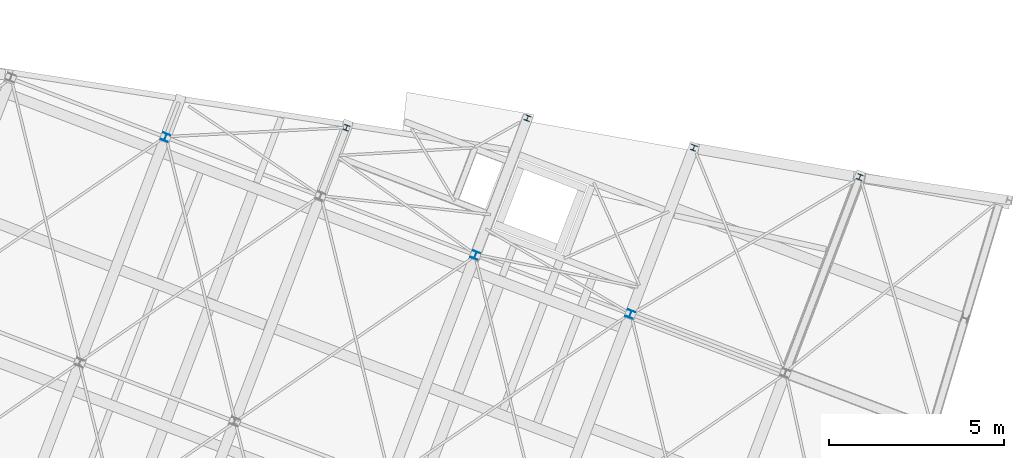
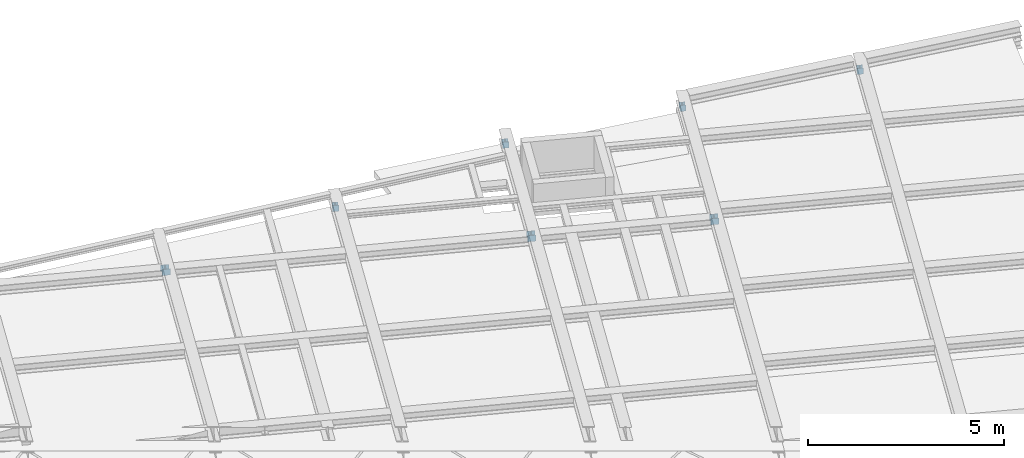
# One storey, part 7 of 21: 7 columns.
"""IFC2X3 building model written with IfcOpenShell, lengths in millimetres."""

from ifc_helpers import new_model, entity, si_unit, converted_unit, derived_unit, direction, frame, frame_2d, origin, origin_2d_with_axis, place, context, subcontext, project, spatial, i_section, extrude, source, transform, mapped, material, type_object, type_shapes, element, save


model = new_model("IFC2X3")

# Units and contexts
model_context = context("Model", 3, precision=0.01, world=origin(), true_north=direction((6.123233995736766e-17, 1.0)))
body_context = subcontext(model_context, "Body", "Model", "MODEL_VIEW")
ifc_project = project(units=[si_unit("LENGTHUNIT", "METRE", prefix="MILLI"), converted_unit("PLANEANGLEUNIT", "DEGREE", entity("IfcPlaneAngleMeasure", 0.017453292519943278), si_unit("PLANEANGLEUNIT", "RADIAN"), dimensions=[0, 0, 0, 0, 0, 0, 0]), si_unit("AREAUNIT", "SQUARE_METRE"), derived_unit("THERMALTRANSMITTANCEUNIT", [(si_unit("MASSUNIT", "GRAM", prefix="KILO"), 1), (si_unit("THERMODYNAMICTEMPERATUREUNIT", "KELVIN"), -1), (si_unit("TIMEUNIT", "SECOND"), -3)])], contexts=[model_context])

# Site, building, storey
site_placement = place(None, frame((-72937.88054949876, 11621.45624098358, 0.0), z_axis=(0.0, 0.0, 1.0), x_axis=(0.9346418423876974, -0.35559053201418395, 0.0)))
site = spatial("IfcSite", under=ifc_project, at=site_placement, Name="Default", CompositionType="ELEMENT")
building_placement = place(site_placement, origin())
building = spatial("IfcBuilding", under=site, at=building_placement, CompositionType="ELEMENT")
storey_placement = place(building_placement, frame((0.0, 0.0, 4250.0)))
storey = spatial("IfcBuildingStorey", under=building, at=storey_placement, Name="01 eerste verdieping", CompositionType="ELEMENT", Elevation=4250.0)

# Columns
ifc_material = material(Name="metaal_staal_generiek")
column_type_1 = type_object("IfcColumnType", Name="DIE16", PredefinedType="COLUMN", material=ifc_material)
shared_shape_1 = source(origin(), body_context, "Body", "SweptSolid", [
    extrude(i_section(OverallWidth=160.0, OverallDepth=152.0, WebThickness=5.999999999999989, FlangeThickness=9.000000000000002, FilletRadius=15.0, at=frame_2d((0.0, 7.105427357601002e-15), x_axis=(1.0, 0.0))), frame((0.0, 0.0, 4190.0), z_axis=(0.0, 0.0, 1.0), x_axis=(-1.0, 0.0, 0.0)), (0.0, 0.0, 1.0), 190.0000000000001),
])
type_shapes(column_type_1, [shared_shape_1])
for number, where in (
    (1, (62300.0, 34739.5, -4250.0)),
    (2, (57570.0, 33835.9612108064, -4250.0)),
    (3, (52840.0, 32940.76920149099, -4250.0)),
    (4, (48110.0, 30847.54266561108, -4250.0)),
):
    element("IfcColumn", number, at=place(storey_placement, frame(where)), inside=storey, type_object=column_type_1, material=ifc_material, Name="28.11_SCO_KolomHEA:DIE16", ObjectType="28.11_SCO_KolomHEA:DIE16", context=body_context, shape_type="MappedRepresentation", body=[
        mapped(shared_shape_1, transform((0.0, 0.0, 0.0), scale=1.0)),
    ])
column_type_2 = type_object("IfcColumnType", Name="DIE22", PredefinedType="COLUMN", material=ifc_material)
shared_shape_2 = source(origin(), body_context, "Body", "SweptSolid", [
    extrude(i_section(OverallWidth=219.99999999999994, OverallDepth=209.99999999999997, WebThickness=6.999999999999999, FlangeThickness=11.000000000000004, FilletRadius=18.0, at=origin_2d_with_axis()), frame((0.0, 0.0, 4190.0), z_axis=(0.0, 0.0, 1.0), x_axis=(-1.0, 0.0, 0.0)), (0.0, 0.0, 1.0), 189.99999999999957),
])
type_shapes(column_type_2, [shared_shape_2])
for number, where in (
    (5, (57570.0, 28760.0, -4250.0)),
    (6, (52840.0, 28760.0, -4250.0)),
    (7, (43380.0, 28760.0, -4250.0)),
):
    element("IfcColumn", number, at=place(storey_placement, frame(where)), inside=storey, type_object=column_type_2, material=ifc_material, Name="28.11_SCO_KolomHEA:DIE22", ObjectType="28.11_SCO_KolomHEA:DIE22", context=body_context, shape_type="MappedRepresentation", body=[
        mapped(shared_shape_2, transform((0.0, 0.0, 0.0), scale=1.0)),
    ])

save(model, "model.ifc")
